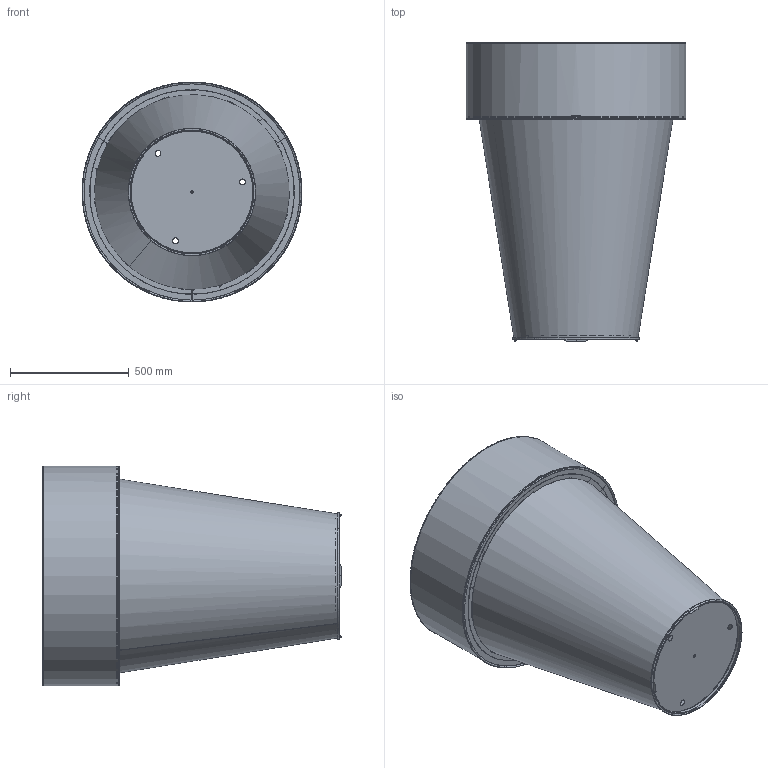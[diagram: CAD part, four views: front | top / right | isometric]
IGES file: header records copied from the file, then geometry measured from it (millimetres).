
Start section: SolidWorks IGES file using analytic representation for surfaces
Global section: file name: \\utenti\Dati Utenti\Tecnico\DC\2D - 3D per sito\3D\DeCastelli-3D-Omega XXL 119.igs; native system: SolidWorks 2022; preprocessor: SolidWorks 2022; author: Simonep; date: 240807.172541; units: millimetre
Bounding box: 928 x 1260.2 x 928 mm (x, y, z)
Surface area: 8912461.6 mm2 (no closed solid volume)
Topology: 0 solids, 0 shells, 126 faces, 2918 edges, 2918 vertices
Faces by surface type: bspline 82, revolution 44
